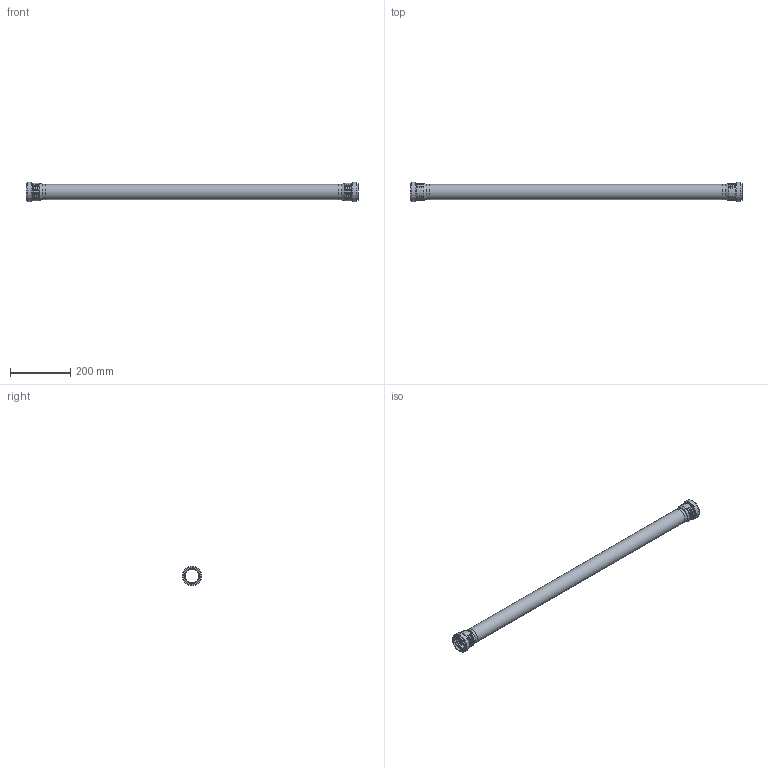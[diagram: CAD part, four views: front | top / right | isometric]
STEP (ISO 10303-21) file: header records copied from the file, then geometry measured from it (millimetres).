
FILE_DESCRIPTION(/* description */ (''),/* implementation_level */ '2;1');
FILE_NAME(/* name */ 'H:\Geberit-Teile\Export\PP_Rohr 2 Muffen_TEST\stp\393211.stp',/* time_stamp */ '2017-02-13T17:09:30+01:00',/* author */ ('seihe2'),/* organization */ (''),/* preprocessor_version */ 'ST-DEVELOPER v15.2',/* originating_system */ 'Autodesk Inventor 2014',/* authorisation */ '');
FILE_SCHEMA (('AUTOMOTIVE_DESIGN { 1 0 10303 214 3 1 1 }'));
Length unit declared in the file: millimetre
Products named in the file (1): 393211
Bounding box: 1101.6 x 65.1 x 65.1 mm (x, y, z)
Volume: 512683.7 mm3; surface area: 349291.2 mm2
Topology: 3 solids, 3 shells, 70 faces, 154 edges, 108 vertices
Faces by surface type: torus 32, cylinder 18, plane 14, bspline 4, cone 2
Full cylindrical faces by diameter (mm): 44.15 x3, 50.15 x3, 50.8 x2, 52 x2, 56.3 x2, 57.5 x2, 59.9 x2, 65.1 x2
Entity records: 4044 total; most frequent: CARTESIAN_POINT 2599, ORIENTED_EDGE 248, DIRECTION 238, EDGE_LOOP 124, EDGE_CURVE 124, AXIS2_PLACEMENT_3D 119, VERTEX_POINT 108, STYLED_ITEM 73
